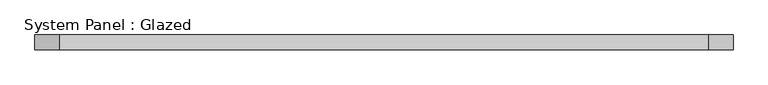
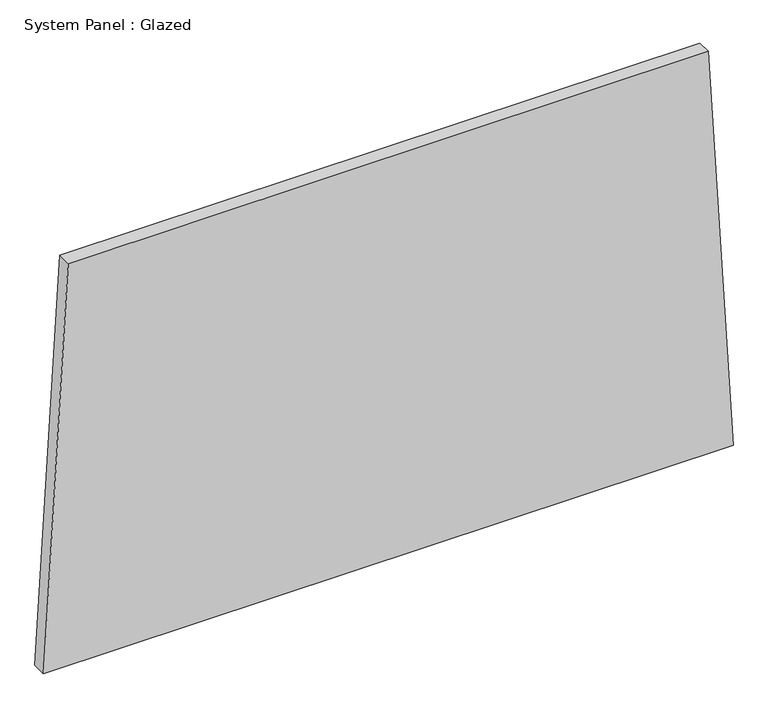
"""IFC4 building model written with IfcOpenShell, lengths in millimetres: plate geometry, System Panel : Glazed."""

import ifcopenshell
import ifcopenshell.guid

model = None  # the IFC model being written
_history = None  # IfcOwnerHistory: only IFC2X3 demands one
_inside = {}  # id of a spatial element -> (the spatial element, [elements in it])
_under = {}  # id of a project, library or spatial element -> (it, [spatial elements below it])
_declared = {}  # id of a project -> (the project, [libraries it declares])
_typed = {}  # id of a type object -> (the type object, [elements of that type])
_made_of = {}  # id of a material, layer set ... -> (it, [elements and type objects made of it])


def new_model(schema):
    """Start an empty IFC model of exactly this schema.

    Asked for "IFC4X3", IfcOpenShell would pick the latest addendum, in which some entities
    have other attributes; the version numbers below select the first issue.
    IFC2X3 requires an IfcOwnerHistory on every rooted entity: one is made here for all.
    """
    global model, _history
    if schema == "IFC4X3":
        model = ifcopenshell.file(schema_version=(4, 3, 0, 0))
    else:
        model = ifcopenshell.file(schema=schema)
    _inside.clear()
    _under.clear()
    _declared.clear()
    _typed.clear()
    _made_of.clear()
    _history = None
    if model.schema == "IFC2X3":
        org = make("IfcOrganization", Name="unknown")
        user = make(
            "IfcPersonAndOrganization",
            ThePerson=make("IfcPerson", FamilyName="unknown"),
            TheOrganization=org,
        )
        app = make(
            "IfcApplication",
            ApplicationDeveloper=org,
            Version="unknown",
            ApplicationFullName="unknown",
            ApplicationIdentifier="unknown",
        )
        _history = make(
            "IfcOwnerHistory",
            OwningUser=user,
            OwningApplication=app,
            ChangeAction="ADDED",
            CreationDate=0,
        )
    return model


def make(cls, **values):
    """One entity of the class cls with the attributes given. An attribute that is None is left unset."""
    return model.create_entity(
        cls, **{name: value for name, value in values.items() if value is not None}
    )


def rooted(cls, **values):
    """An entity with a GlobalId (a new one), such as an element, a storey or a relation."""
    return make(cls, GlobalId=ifcopenshell.guid.new(), OwnerHistory=_history, **values)


def si_unit(unit_type, name, prefix=None):
    """IfcSIUnit, for example si_unit("LENGTHUNIT", "METRE", prefix="MILLI")."""
    return make("IfcSIUnit", UnitType=unit_type, Prefix=prefix, Name=name)


def assignment(units):
    """IfcUnitAssignment: the units of a project."""
    return None if units is None else make("IfcUnitAssignment", Units=units)


def point(xyz):
    """IfcCartesianPoint."""
    return None if xyz is None else make("IfcCartesianPoint", Coordinates=xyz)


def direction(xyz):
    """IfcDirection."""
    return None if xyz is None else make("IfcDirection", DirectionRatios=xyz)


def frame(location, z_axis=None, x_axis=None):
    """IfcAxis2Placement3D, a coordinate frame: its origin and axes. An axis left out is left unset."""
    return make(
        "IfcAxis2Placement3D",
        Location=point(location),
        Axis=direction(z_axis),
        RefDirection=direction(x_axis),
    )


def origin():
    """The frame at (0, 0, 0) with its axes left unset."""
    return frame((0.0, 0.0, 0.0))


def place(relative_to, where):
    """IfcLocalPlacement: puts the frame where relative to a parent placement (None: the world)."""
    return make(
        "IfcLocalPlacement", PlacementRelTo=relative_to, RelativePlacement=where
    )


def context(
    kind, dimensions, precision=None, world=None, true_north=None, identifier=None
):
    """IfcGeometricRepresentationContext, for example the 3D "Model" context."""
    return make(
        "IfcGeometricRepresentationContext",
        ContextIdentifier=identifier,
        ContextType=kind,
        CoordinateSpaceDimension=dimensions,
        Precision=precision,
        WorldCoordinateSystem=world,
        TrueNorth=true_north,
    )


def project(units=None, contexts=None):
    """IfcProject with its units and contexts."""
    return rooted(
        "IfcProject",
        Name="project",
        RepresentationContexts=contexts,
        UnitsInContext=assignment(units),
    )


def spatial(cls, under=None, at=None, **own):
    """A site, building, storey or space (cls), placed at a placement, below another one or the project."""
    s = rooted(cls, ObjectPlacement=at, **own)
    if under is not None:
        _under.setdefault(under.id(), (under, []))[1].append(s)
    return s


def polyline(points):
    """IfcPolyline through the points."""
    return make("IfcPolyline", Points=[point(p) for p in points])


def outline(outer, holes=None, kind="AREA"):
    """IfcArbitraryClosedProfileDef: a profile drawn as a closed curve; with holes, ...WithVoids."""
    if holes is None:
        return make("IfcArbitraryClosedProfileDef", ProfileType=kind, OuterCurve=outer)
    return make(
        "IfcArbitraryProfileDefWithVoids",
        ProfileType=kind,
        OuterCurve=outer,
        InnerCurves=holes,
    )


def extrude(swept, where, along, depth):
    """IfcExtrudedAreaSolid: the profile swept, set in the frame where, extruded along a direction by depth."""
    return make(
        "IfcExtrudedAreaSolid",
        SweptArea=swept,
        Position=where,
        ExtrudedDirection=direction(along),
        Depth=depth,
    )


def shape(context_of_items, identifier, shape_type, items):
    """IfcShapeRepresentation: the items that make up one representation, for example the "Body"."""
    return make(
        "IfcShapeRepresentation",
        ContextOfItems=context_of_items,
        RepresentationIdentifier=identifier,
        RepresentationType=shape_type,
        Items=items,
    )


def source(mapping_origin, context_of_items, identifier, shape_type, items):
    """IfcRepresentationMap: a shape defined once, which mapped items show again and again."""
    return make(
        "IfcRepresentationMap",
        MappingOrigin=mapping_origin,
        MappedRepresentation=shape(context_of_items, identifier, shape_type, items),
    )


def transform(
    local_origin,
    x_axis=None,
    y_axis=None,
    z_axis=None,
    scale=None,
    scale2=None,
    scale3=None,
    uniform=True,
):
    """IfcCartesianTransformationOperator3D, or its non-uniform kind. x_axis, y_axis, z_axis: its Axis1, 2, 3."""
    if uniform:
        return make(
            "IfcCartesianTransformationOperator3D",
            Axis1=direction(x_axis),
            Axis2=direction(y_axis),
            LocalOrigin=point(local_origin),
            Scale=scale,
            Axis3=direction(z_axis),
        )
    return make(
        "IfcCartesianTransformationOperator3DnonUniform",
        Axis1=direction(x_axis),
        Axis2=direction(y_axis),
        LocalOrigin=point(local_origin),
        Scale=scale,
        Axis3=direction(z_axis),
        Scale2=scale2,
        Scale3=scale3,
    )


def mapped(mapping_source, mapping_target):
    """IfcMappedItem: shows the shape of a source again, moved by a transform."""
    return make(
        "IfcMappedItem", MappingSource=mapping_source, MappingTarget=mapping_target
    )


def made_of(thing, what):
    """Note that an element or type object is made of a material, layer set ...; save() writes the relation."""
    if what is not None:
        _made_of.setdefault(what.id(), (what, []))[1].append(thing)
    return thing


def element(
    cls,
    number,
    at=None,
    inside=None,
    cuts=None,
    type_object=None,
    material=None,
    context=None,
    identifier="Body",
    shape_type=None,
    held_by="IfcProductDefinitionShape",
    body=None,
    shapes=None,
    **own,
):
    """One element of the class cls, such as IfcWall. Its Tag is "e" and its number.

    at: its placement. inside: the storey or other place that contains it. cuts: it is an
    opening in that element (IfcRelVoidsElement). A single representation is given by context,
    identifier, shape_type and body (its items); several are given by shapes. held_by: the class
    of the entity that holds the representations. save() writes the other relations.
    """
    e = rooted(cls, Tag="e%d" % number, ObjectPlacement=at, **own)
    if body is not None:
        shapes = [shape(context, identifier, shape_type, body)]
    if shapes is not None:
        e.Representation = make(held_by, Representations=shapes)
    if inside is not None:
        _inside.setdefault(inside.id(), (inside, []))[1].append(e)
    if cuts is not None:
        rooted(
            "IfcRelVoidsElement", RelatingBuildingElement=cuts, RelatedOpeningElement=e
        )
    if type_object is not None:
        _typed.setdefault(type_object.id(), (type_object, []))[1].append(e)
    return made_of(e, material)


def aggregate(whole, parts):
    """IfcRelAggregates: a whole, such as a stair, and the parts it consists of."""
    return rooted("IfcRelAggregates", RelatingObject=whole, RelatedObjects=parts)


def save(model, path):
    """Write the relations noted so far, then the file.

    IfcRelAggregates (storeys below a building ...), IfcRelContainedInSpatialStructure (elements
    in a storey), IfcRelDefinesByType, IfcRelAssociatesMaterial and IfcRelDeclares: one each for
    every whole, place, type object, material and project.
    """
    for whole, parts in _under.values():
        aggregate(whole, parts)
    for where, things in _inside.values():
        rooted(
            "IfcRelContainedInSpatialStructure",
            RelatedElements=things,
            RelatingStructure=where,
        )
    for kind, things in _typed.values():
        rooted("IfcRelDefinesByType", RelatedObjects=things, RelatingType=kind)
    for what, things in _made_of.values():
        rooted("IfcRelAssociatesMaterial", RelatedObjects=things, RelatingMaterial=what)
    for by, libraries in _declared.values():
        rooted("IfcRelDeclares", RelatingContext=by, RelatedDefinitions=libraries)
    model.write(path)


def system_panel_glazed_fdc99001(model_context):
    return source(origin(), model_context, "Body", "SweptSolid", [
        extrude(outline(polyline([(0.0, -596.4454195), (0.0, 596.4454195), (735.326068, 553.8722799), (735.326068, -553.8722799), (0.0, -596.4454195)])), frame((0.0, 19.05, 0.0), z_axis=(0.0, 1.0, 0.0), x_axis=(0.0, 0.0, 1.0)), (0.0, 0.0, 1.0), 25.4),
    ])


if __name__ == "__main__":
    model = new_model("IFC4")
    model_context = context("Model", 3, world=origin())
    ifc_project = project(units=[si_unit("LENGTHUNIT", "METRE", prefix="MILLI")], contexts=[model_context])
    site = spatial("IfcSite", under=ifc_project)
    building = spatial("IfcBuilding", under=site)
    placement = place(None, origin())
    system_panel_glazed_shape = system_panel_glazed_fdc99001(model_context)
    element("IfcPlate", 1, ObjectType="System Panel : Glazed", at=placement, inside=building, context=model_context, shape_type="MappedRepresentation", body=[
        mapped(system_panel_glazed_shape, transform((0.0, 0.0, 0.0), x_axis=(1.0, 0.0, 0.0), y_axis=(0.0, 1.0, 0.0), z_axis=(0.0, 0.0, 1.0))),
    ])
    save(model, "model.ifc")
